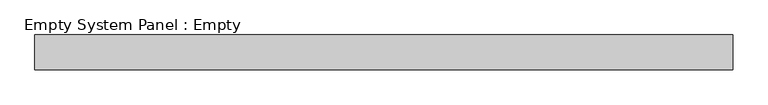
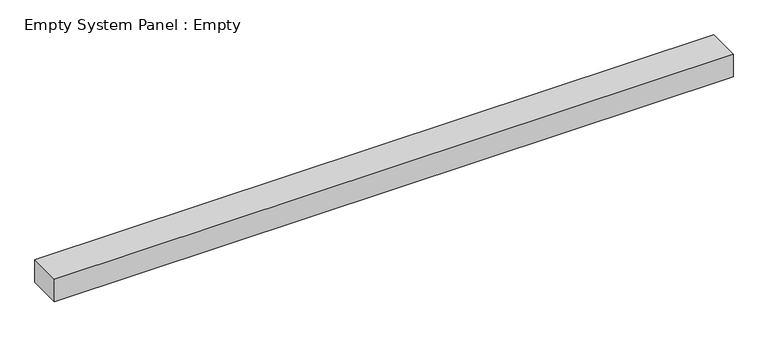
"""IFC4 building model written with IfcOpenShell, lengths in millimetres: plate geometry, Empty System Panel : Empty."""

import ifcopenshell
import ifcopenshell.guid

model = None  # the IFC model being written
_history = None  # IfcOwnerHistory: only IFC2X3 demands one
_inside = {}  # id of a spatial element -> (the spatial element, [elements in it])
_under = {}  # id of a project, library or spatial element -> (it, [spatial elements below it])
_declared = {}  # id of a project -> (the project, [libraries it declares])
_typed = {}  # id of a type object -> (the type object, [elements of that type])
_made_of = {}  # id of a material, layer set ... -> (it, [elements and type objects made of it])


def new_model(schema):
    """Start an empty IFC model of exactly this schema.

    Asked for "IFC4X3", IfcOpenShell would pick the latest addendum, in which some entities
    have other attributes; the version numbers below select the first issue.
    IFC2X3 requires an IfcOwnerHistory on every rooted entity: one is made here for all.
    """
    global model, _history
    if schema == "IFC4X3":
        model = ifcopenshell.file(schema_version=(4, 3, 0, 0))
    else:
        model = ifcopenshell.file(schema=schema)
    _inside.clear()
    _under.clear()
    _declared.clear()
    _typed.clear()
    _made_of.clear()
    _history = None
    if model.schema == "IFC2X3":
        org = make("IfcOrganization", Name="unknown")
        user = make(
            "IfcPersonAndOrganization",
            ThePerson=make("IfcPerson", FamilyName="unknown"),
            TheOrganization=org,
        )
        app = make(
            "IfcApplication",
            ApplicationDeveloper=org,
            Version="unknown",
            ApplicationFullName="unknown",
            ApplicationIdentifier="unknown",
        )
        _history = make(
            "IfcOwnerHistory",
            OwningUser=user,
            OwningApplication=app,
            ChangeAction="ADDED",
            CreationDate=0,
        )
    return model


def make(cls, **values):
    """One entity of the class cls with the attributes given. An attribute that is None is left unset."""
    return model.create_entity(
        cls, **{name: value for name, value in values.items() if value is not None}
    )


def rooted(cls, **values):
    """An entity with a GlobalId (a new one), such as an element, a storey or a relation."""
    return make(cls, GlobalId=ifcopenshell.guid.new(), OwnerHistory=_history, **values)


def si_unit(unit_type, name, prefix=None):
    """IfcSIUnit, for example si_unit("LENGTHUNIT", "METRE", prefix="MILLI")."""
    return make("IfcSIUnit", UnitType=unit_type, Prefix=prefix, Name=name)


def assignment(units):
    """IfcUnitAssignment: the units of a project."""
    return None if units is None else make("IfcUnitAssignment", Units=units)


def point(xyz):
    """IfcCartesianPoint."""
    return None if xyz is None else make("IfcCartesianPoint", Coordinates=xyz)


def direction(xyz):
    """IfcDirection."""
    return None if xyz is None else make("IfcDirection", DirectionRatios=xyz)


def frame(location, z_axis=None, x_axis=None):
    """IfcAxis2Placement3D, a coordinate frame: its origin and axes. An axis left out is left unset."""
    return make(
        "IfcAxis2Placement3D",
        Location=point(location),
        Axis=direction(z_axis),
        RefDirection=direction(x_axis),
    )


def origin():
    """The frame at (0, 0, 0) with its axes left unset."""
    return frame((0.0, 0.0, 0.0))


def origin_with_axes():
    """The frame at (0, 0, 0) with the z axis (0, 0, 1) and the x axis (1, 0, 0) written out."""
    return frame((0.0, 0.0, 0.0), z_axis=(0.0, 0.0, 1.0), x_axis=(1.0, 0.0, 0.0))


def place(relative_to, where):
    """IfcLocalPlacement: puts the frame where relative to a parent placement (None: the world)."""
    return make(
        "IfcLocalPlacement", PlacementRelTo=relative_to, RelativePlacement=where
    )


def context(
    kind, dimensions, precision=None, world=None, true_north=None, identifier=None
):
    """IfcGeometricRepresentationContext, for example the 3D "Model" context."""
    return make(
        "IfcGeometricRepresentationContext",
        ContextIdentifier=identifier,
        ContextType=kind,
        CoordinateSpaceDimension=dimensions,
        Precision=precision,
        WorldCoordinateSystem=world,
        TrueNorth=true_north,
    )


def project(units=None, contexts=None):
    """IfcProject with its units and contexts."""
    return rooted(
        "IfcProject",
        Name="project",
        RepresentationContexts=contexts,
        UnitsInContext=assignment(units),
    )


def spatial(cls, under=None, at=None, **own):
    """A site, building, storey or space (cls), placed at a placement, below another one or the project."""
    s = rooted(cls, ObjectPlacement=at, **own)
    if under is not None:
        _under.setdefault(under.id(), (under, []))[1].append(s)
    return s


def polyline(points):
    """IfcPolyline through the points."""
    return make("IfcPolyline", Points=[point(p) for p in points])


def outline(outer, holes=None, kind="AREA"):
    """IfcArbitraryClosedProfileDef: a profile drawn as a closed curve; with holes, ...WithVoids."""
    if holes is None:
        return make("IfcArbitraryClosedProfileDef", ProfileType=kind, OuterCurve=outer)
    return make(
        "IfcArbitraryProfileDefWithVoids",
        ProfileType=kind,
        OuterCurve=outer,
        InnerCurves=holes,
    )


def extrude(swept, where, along, depth):
    """IfcExtrudedAreaSolid: the profile swept, set in the frame where, extruded along a direction by depth."""
    return make(
        "IfcExtrudedAreaSolid",
        SweptArea=swept,
        Position=where,
        ExtrudedDirection=direction(along),
        Depth=depth,
    )


def shape(context_of_items, identifier, shape_type, items):
    """IfcShapeRepresentation: the items that make up one representation, for example the "Body"."""
    return make(
        "IfcShapeRepresentation",
        ContextOfItems=context_of_items,
        RepresentationIdentifier=identifier,
        RepresentationType=shape_type,
        Items=items,
    )


def source(mapping_origin, context_of_items, identifier, shape_type, items):
    """IfcRepresentationMap: a shape defined once, which mapped items show again and again."""
    return make(
        "IfcRepresentationMap",
        MappingOrigin=mapping_origin,
        MappedRepresentation=shape(context_of_items, identifier, shape_type, items),
    )


def transform(
    local_origin,
    x_axis=None,
    y_axis=None,
    z_axis=None,
    scale=None,
    scale2=None,
    scale3=None,
    uniform=True,
):
    """IfcCartesianTransformationOperator3D, or its non-uniform kind. x_axis, y_axis, z_axis: its Axis1, 2, 3."""
    if uniform:
        return make(
            "IfcCartesianTransformationOperator3D",
            Axis1=direction(x_axis),
            Axis2=direction(y_axis),
            LocalOrigin=point(local_origin),
            Scale=scale,
            Axis3=direction(z_axis),
        )
    return make(
        "IfcCartesianTransformationOperator3DnonUniform",
        Axis1=direction(x_axis),
        Axis2=direction(y_axis),
        LocalOrigin=point(local_origin),
        Scale=scale,
        Axis3=direction(z_axis),
        Scale2=scale2,
        Scale3=scale3,
    )


def mapped(mapping_source, mapping_target):
    """IfcMappedItem: shows the shape of a source again, moved by a transform."""
    return make(
        "IfcMappedItem", MappingSource=mapping_source, MappingTarget=mapping_target
    )


def made_of(thing, what):
    """Note that an element or type object is made of a material, layer set ...; save() writes the relation."""
    if what is not None:
        _made_of.setdefault(what.id(), (what, []))[1].append(thing)
    return thing


def element(
    cls,
    number,
    at=None,
    inside=None,
    cuts=None,
    type_object=None,
    material=None,
    context=None,
    identifier="Body",
    shape_type=None,
    held_by="IfcProductDefinitionShape",
    body=None,
    shapes=None,
    **own,
):
    """One element of the class cls, such as IfcWall. Its Tag is "e" and its number.

    at: its placement. inside: the storey or other place that contains it. cuts: it is an
    opening in that element (IfcRelVoidsElement). A single representation is given by context,
    identifier, shape_type and body (its items); several are given by shapes. held_by: the class
    of the entity that holds the representations. save() writes the other relations.
    """
    e = rooted(cls, Tag="e%d" % number, ObjectPlacement=at, **own)
    if body is not None:
        shapes = [shape(context, identifier, shape_type, body)]
    if shapes is not None:
        e.Representation = make(held_by, Representations=shapes)
    if inside is not None:
        _inside.setdefault(inside.id(), (inside, []))[1].append(e)
    if cuts is not None:
        rooted(
            "IfcRelVoidsElement", RelatingBuildingElement=cuts, RelatedOpeningElement=e
        )
    if type_object is not None:
        _typed.setdefault(type_object.id(), (type_object, []))[1].append(e)
    return made_of(e, material)


def aggregate(whole, parts):
    """IfcRelAggregates: a whole, such as a stair, and the parts it consists of."""
    return rooted("IfcRelAggregates", RelatingObject=whole, RelatedObjects=parts)


def save(model, path):
    """Write the relations noted so far, then the file.

    IfcRelAggregates (storeys below a building ...), IfcRelContainedInSpatialStructure (elements
    in a storey), IfcRelDefinesByType, IfcRelAssociatesMaterial and IfcRelDeclares: one each for
    every whole, place, type object, material and project.
    """
    for whole, parts in _under.values():
        aggregate(whole, parts)
    for where, things in _inside.values():
        rooted(
            "IfcRelContainedInSpatialStructure",
            RelatedElements=things,
            RelatingStructure=where,
        )
    for kind, things in _typed.values():
        rooted("IfcRelDefinesByType", RelatedObjects=things, RelatingType=kind)
    for what, things in _made_of.values():
        rooted("IfcRelAssociatesMaterial", RelatedObjects=things, RelatingMaterial=what)
    for by, libraries in _declared.values():
        rooted("IfcRelDeclares", RelatingContext=by, RelatedDefinitions=libraries)
    model.write(path)


def empty_system_panel_empty_0c4ce8c7(model_context):
    return source(origin(), model_context, "Body", "SweptSolid", [
        extrude(outline(polyline([(1000.0, -50.0), (-1000.0, -50.0), (-1000.0, 50.0), (1000.0, 50.0), (1000.0, -50.0)])), origin_with_axes(), (0.0, 0.0, 1.0), 70.4020203),
    ])


if __name__ == "__main__":
    model = new_model("IFC4")
    model_context = context("Model", 3, world=origin())
    ifc_project = project(units=[si_unit("LENGTHUNIT", "METRE", prefix="MILLI")], contexts=[model_context])
    site = spatial("IfcSite", under=ifc_project)
    building = spatial("IfcBuilding", under=site)
    placement = place(None, origin())
    empty_system_panel_empty_shape = empty_system_panel_empty_0c4ce8c7(model_context)
    element("IfcPlate", 1, ObjectType="Empty System Panel : Empty", at=placement, inside=building, context=model_context, shape_type="MappedRepresentation", body=[
        mapped(empty_system_panel_empty_shape, transform((0.0, 0.0, 0.0), x_axis=(1.0, 0.0, 0.0), y_axis=(0.0, 1.0, 0.0), z_axis=(0.0, 0.0, 1.0))),
    ])
    save(model, "model.ifc")
